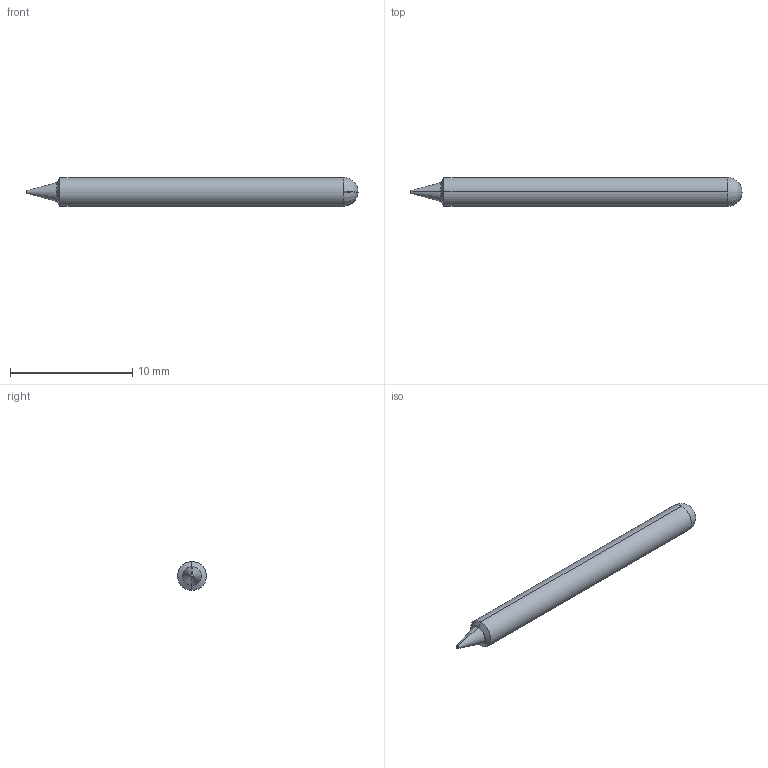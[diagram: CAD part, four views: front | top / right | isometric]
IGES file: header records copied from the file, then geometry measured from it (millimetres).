
Start section: SolidWorks IGES file using analytic representation for surfaces
Global section: file name: Z:\probe solid model mockups\Solidworks models\IGES Files\HCP-14 IGES files\HCP-14B Full.IGS; native system: SolidWorks 2006 by SolidWorks Corporation; preprocessor: SolidWorks 2006 by SolidWorks Corporation; author: tsakatani; date: 071202.143531; units: inch
Bounding box: 27.18 x 2.36 x 2.36 mm (x, y, z)
Surface area: 191.2 mm2 (no closed solid volume)
Topology: 0 solids, 0 shells, 12 faces, 56 edges, 52 vertices
Faces by surface type: revolution 12
